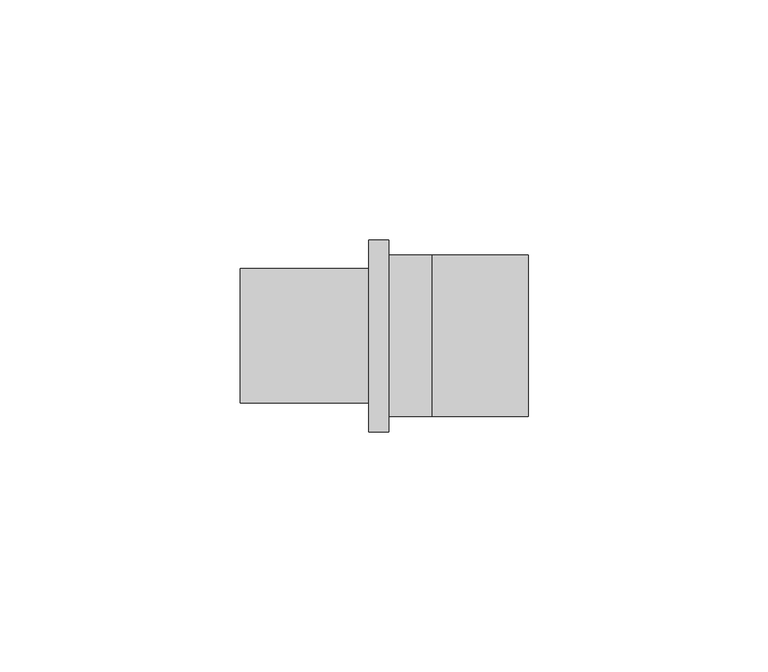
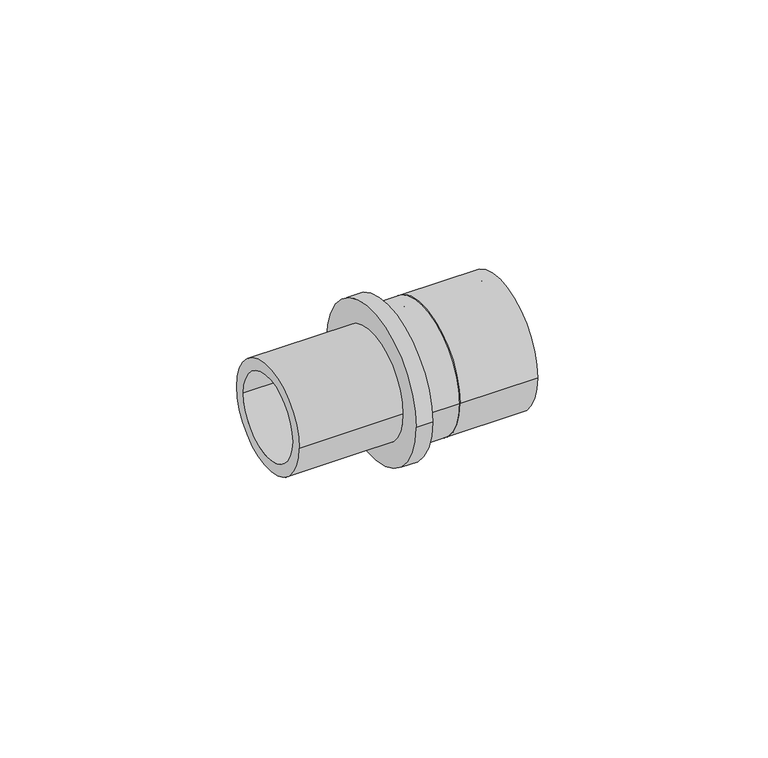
"""IFC4 building model written with IfcOpenShell, lengths in millimetres: pipe fitting geometry, Adapter with welding end : A welding LX."""

from ifc_helpers import new_model, si_unit, point, frame, origin, origin_2d, place, context, project, spatial, polyline, circle_curve, trimmed, segment, composite_curve, outline, extrude, source, transform, mapped, element, save
from ifc_brep_helpers import plane_surface, cylinder_surface, revolved_surface, advanced_brep


def pipe_fitting_c80349c2(model_context):
    return source(origin(), model_context, "Body", "SolidModel", [
        extrude(outline(composite_curve([segment(trimmed(circle_curve(origin_2d(), 16.8), [point((-16.8, 0.0))], [point((16.8, 0.0))], False, "CARTESIAN"), True, "CONTINUOUS"), segment(trimmed(circle_curve(origin_2d(), 16.8), [point((16.8, 0.0))], [point((-16.8, 0.0))], False, "CARTESIAN"), True, "CONTINUOUS")], self_intersect=False), holes=[composite_curve([segment(trimmed(circle_curve(origin_2d(), 13.95), [point((13.95, 0.0))], [point((-13.95, 0.0))], True, "CARTESIAN"), True, "CONTINUOUS"), segment(trimmed(circle_curve(origin_2d(), 13.95), [point((-13.95, 0.0))], [point((13.95, 0.0))], True, "CARTESIAN"), True, "CONTINUOUS")], self_intersect=False)]), frame((0.0, 0.0, 0.0), z_axis=(1.0, 0.0, 0.0), x_axis=(0.0, 1.0, 0.0)), (0.0, 0.0, 1.0), 20.0),
        advanced_brep(
        [(0.0, 16.8, 0.0), (0.0, -16.8, 0.0), (-9.0, -16.8, 0.0), (-9.0, 16.8, 0.0), (-9.0, 13.95, 0.0), (-9.0, -13.95, 0.0), (0.0, -13.95, 0.0), (0.0, 13.95, 0.0), (-40.0, 11.0, 0.0), (-40.0, -11.0, 0.0), (-9.0, -11.0, 0.0), (-9.0, 11.0, 0.0), (-13.2, 14.0, 0.0), (-13.2, -14.0, 0.0), (-40.0, -14.0, 0.0), (-40.0, 14.0, 0.0), (-9.0, 20.0, 0.0), (-9.0, -20.0, 0.0), (-13.2, -20.0, 0.0), (-13.2, 20.0, 0.0)],
        [
            (0, 1, circle_curve(frame((0.0, 0.0, 0.0), z_axis=(-1.0, 0.0, 0.0), x_axis=(0.0, -1.0, 0.0)), 16.8)),
            (1, 2),
            (2, 3, circle_curve(frame((-9.0, 0.0, 0.0), z_axis=(1.0, 0.0, 0.0), x_axis=(0.0, -1.0, 0.0)), 16.8)),
            (3, 0),
            (4, 5, circle_curve(frame((-9.0, 0.0, 0.0), z_axis=(-1.0, 0.0, 0.0), x_axis=(0.0, -1.0, 0.0)), 13.95)),
            (5, 6),
            (6, 7, circle_curve(frame((0.0, 0.0, 0.0), z_axis=(1.0, 0.0, 0.0), x_axis=(0.0, -1.0, 0.0)), 13.95)),
            (7, 4),
            (8, 9, circle_curve(frame((-40.0, 0.0, 0.0), z_axis=(-1.0, 0.0, 0.0), x_axis=(0.0, -1.0, 0.0)), 11.0)),
            (9, 10),
            (10, 11, circle_curve(frame((-9.0, 0.0, 0.0), z_axis=(1.0, 0.0, 0.0), x_axis=(0.0, -1.0, 0.0)), 11.0)),
            (11, 8),
            (12, 13, circle_curve(frame((-13.2, 0.0, 0.0), z_axis=(-1.0, 0.0, 0.0), x_axis=(0.0, -1.0, 0.0)), 14.0)),
            (13, 14),
            (14, 15, circle_curve(frame((-40.0, 0.0, 0.0), z_axis=(1.0, 0.0, 0.0), x_axis=(0.0, -1.0, 0.0)), 14.0)),
            (15, 12),
            (16, 17, circle_curve(frame((-9.0, 0.0, 0.0), z_axis=(-1.0, 0.0, 0.0), x_axis=(0.0, -1.0, 0.0)), 20.0)),
            (17, 18),
            (18, 19, circle_curve(frame((-13.2, 0.0, 0.0), z_axis=(1.0, 0.0, 0.0), x_axis=(0.0, -1.0, 0.0)), 20.0)),
            (19, 16),
            (16, 17, circle_curve(frame((-9.0, 0.0, 0.0), z_axis=(1.0, 0.0, 0.0), x_axis=(0.0, 1.0, 0.0)), 20.0)),
            (2, 3, circle_curve(frame((-9.0, 0.0, 0.0), z_axis=(-1.0, 0.0, 0.0), x_axis=(0.0, 1.0, 0.0)), 16.8)),
            (1, 0, circle_curve(frame((0.0, 0.0, 0.0), z_axis=(-1.0, 0.0, 0.0), x_axis=(0.0, 1.0, 0.0)), 16.8)),
            (6, 7, circle_curve(frame((0.0, 0.0, 0.0), z_axis=(-1.0, 0.0, 0.0), x_axis=(0.0, 1.0, 0.0)), 13.95)),
            (5, 4, circle_curve(frame((-9.0, 0.0, 0.0), z_axis=(-1.0, 0.0, 0.0), x_axis=(0.0, 1.0, 0.0)), 13.95)),
            (10, 11, circle_curve(frame((-9.0, 0.0, 0.0), z_axis=(-1.0, 0.0, 0.0), x_axis=(0.0, 1.0, 0.0)), 11.0)),
            (9, 8, circle_curve(frame((-40.0, 0.0, 0.0), z_axis=(-1.0, 0.0, 0.0), x_axis=(0.0, 1.0, 0.0)), 11.0)),
            (14, 15, circle_curve(frame((-40.0, 0.0, 0.0), z_axis=(-1.0, 0.0, 0.0), x_axis=(0.0, 1.0, 0.0)), 14.0)),
            (13, 12, circle_curve(frame((-13.2, 0.0, 0.0), z_axis=(-1.0, 0.0, 0.0), x_axis=(0.0, 1.0, 0.0)), 14.0)),
            (18, 19, circle_curve(frame((-13.2, 0.0, 0.0), z_axis=(-1.0, 0.0, 0.0), x_axis=(0.0, 1.0, 0.0)), 20.0)),
        ],
        [
            cylinder_surface(frame((0.0, 0.0, 0.0), z_axis=(1.0, 0.0, 0.0), x_axis=(0.0, -1.0, 0.0)), 16.8),
            revolved_surface(polyline([(0.0, -13.95, 0.0), (-9.0, -13.95, 0.0)]), (0.0, 0.0, 0.0), (1.0, 0.0, 0.0)),
            revolved_surface(polyline([(-9.0, -11.0, 0.0), (-40.0, -11.0, 0.0)]), (0.0, 0.0, 0.0), (1.0, 0.0, 0.0)),
            cylinder_surface(frame((0.0, 0.0, 0.0), z_axis=(1.0, 0.0, 0.0), x_axis=(0.0, -1.0, 0.0)), 14.0),
            cylinder_surface(frame((0.0, 0.0, 0.0), z_axis=(1.0, 0.0, 0.0), x_axis=(0.0, -1.0, 0.0)), 20.0),
            plane_surface(frame((-9.0, 0.0, 0.0), z_axis=(1.0, 0.0, 0.0), x_axis=(0.0, 1.0, 0.0))),
            cylinder_surface(frame((0.0, 0.0, 0.0), z_axis=(1.0, 0.0, 0.0), x_axis=(0.0, 1.0, 0.0)), 16.8),
            plane_surface(frame((0.0, 0.0, 0.0), z_axis=(1.0, 0.0, 0.0), x_axis=(0.0, 1.0, 0.0))),
            revolved_surface(polyline([(0.0, 13.95, 0.0), (-9.0, 13.95, 0.0)]), (0.0, 0.0, 0.0), (1.0, 0.0, 0.0)),
            revolved_surface(polyline([(-9.0, 11.0, 0.0), (-40.0, 11.0, 0.0)]), (0.0, 0.0, 0.0), (1.0, 0.0, 0.0)),
            plane_surface(frame((-40.0, 0.0, 0.0), z_axis=(-1.0, 0.0, 0.0), x_axis=(0.0, 1.0, 0.0))),
            cylinder_surface(frame((0.0, 0.0, 0.0), z_axis=(1.0, 0.0, 0.0), x_axis=(0.0, 1.0, 0.0)), 14.0),
            plane_surface(frame((-13.2, 0.0, 0.0), z_axis=(-1.0, 0.0, 0.0), x_axis=(0.0, 1.0, 0.0))),
            cylinder_surface(frame((0.0, 0.0, 0.0), z_axis=(1.0, 0.0, 0.0), x_axis=(0.0, 1.0, 0.0)), 20.0),
        ],
        [
            (0, [[1, 2, 3, 4]]),
            (1, [[5, 6, 7, 8]]),
            (2, [[9, 10, 11, 12]]),
            (3, [[13, 14, 15, 16]]),
            (4, [[17, 18, 19, 20]]),
            (5, [[21, -17], [22, -3]]),
            (6, [[23, -4, -22, -2]]),
            (7, [[-23, -1], [24, -7]]),
            (8, [[25, -8, -24, -6]]),
            (5, [[-25, -5], [26, -11]]),
            (9, [[27, -12, -26, -10]]),
            (10, [[28, -15], [-27, -9]]),
            (11, [[29, -16, -28, -14]]),
            (12, [[30, -19], [-29, -13]]),
            (13, [[-21, -20, -30, -18]]),
        ],
    ),
    ])


if __name__ == "__main__":
    model = new_model("IFC4")
    model_context = context("Model", 3, world=origin())
    ifc_project = project(units=[si_unit("LENGTHUNIT", "METRE", prefix="MILLI")], contexts=[model_context])
    site = spatial("IfcSite", under=ifc_project)
    building = spatial("IfcBuilding", under=site)
    placement = place(None, origin())
    pipe_fitting_shape = pipe_fitting_c80349c2(model_context)
    element("IfcPipeFitting", 1, ObjectType="Adapter with welding end : A welding LX", at=placement, inside=building, context=model_context, shape_type="MappedRepresentation", body=[
        mapped(pipe_fitting_shape, transform((0.0, 0.0, 0.0), x_axis=(1.0, 0.0, 0.0), y_axis=(0.0, 1.0, 0.0), z_axis=(0.0, 0.0, 1.0))),
    ])
    save(model, "model.ifc")
